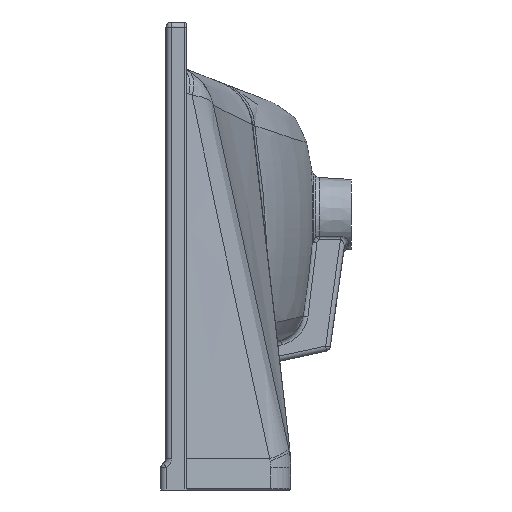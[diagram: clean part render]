
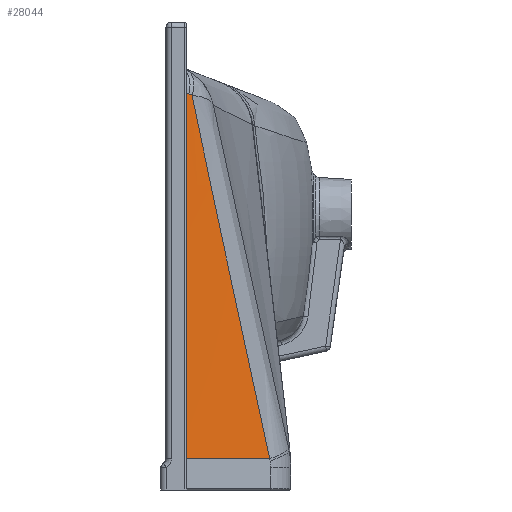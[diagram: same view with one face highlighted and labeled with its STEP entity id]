
A CAD part, left-side view. The second image highlights one B-rep face of the part: STEP entity #28044.
In plain terms, the highlighted free-form (B-spline) face has degree [3, 1] with [6, 2] control points.
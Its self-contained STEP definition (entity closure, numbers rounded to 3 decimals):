
#361 = CARTESIAN_POINT ( 'NONE',  ( -553., -11., -235. ) ) ;
#1311 = CARTESIAN_POINT ( 'NONE',  ( -553., -11., 142.555 ) ) ;
#2045 = CARTESIAN_POINT ( 'NONE',  ( -493.335, -87.06, -176.82 ) ) ;
#2317 = CARTESIAN_POINT ( 'NONE',  ( -543.403, -22.173, 115.467 ) ) ;
#2486 = CARTESIAN_POINT ( 'NONE',  ( -483.888, -99.626, -234.992 ) ) ;
#2519 = ORIENTED_EDGE ( 'NONE', *, *, #32696, .T. ) ;
#2537 = ORIENTED_EDGE ( 'NONE', *, *, #44348, .T. ) ;
#2554 = CARTESIAN_POINT ( 'NONE',  ( -545.001, -20.312, 116.151 ) ) ;
#2987 = CARTESIAN_POINT ( 'NONE',  ( -524.667, -47.333, -235. ) ) ;
#3237 = CARTESIAN_POINT ( 'NONE',  ( -502.806, -74.503, -118.65 ) ) ;
#3599 = EDGE_CURVE ( 'NONE', #39671, #40158, #10442, .T. ) ;
#6000 = B_SPLINE_CURVE_WITH_KNOTS ( 'NONE', 3,
 ( #2317, #39651, #39181, #2554, #9689, #24917, #39422 ),
 .UNSPECIFIED., .F., .F.,
 ( 4, 3, 4 ),
 ( 0.03, 0.033, 0.045 ),
 .UNSPECIFIED. ) ;
#6451 = CARTESIAN_POINT ( 'NONE',  ( -531.331, -37.165, 55.912 ) ) ;
#7763 = CARTESIAN_POINT ( 'NONE',  ( -540.918, -25.072, 114.162 ) ) ;
#9046 = EDGE_CURVE ( 'NONE', #40158, #27388, #36026, .T. ) ;
#9552 = VERTEX_POINT ( 'NONE', #35534 ) ;
#9689 = CARTESIAN_POINT ( 'NONE',  ( -547.517, -17.381, 117.228 ) ) ;
#9849 = CARTESIAN_POINT ( 'NONE',  ( -552.551, -11.526, 112.382 ) ) ;
#10442 = B_SPLINE_CURVE_WITH_KNOTS ( 'NONE', 3,
 ( #38475, #35699, #2045, #3237, #17510, #47427, #13819, #36170, #6451, #40570, #47676, #14300 ),
 .UNSPECIFIED., .F., .F.,
 ( 4, 2, 2, 2, 2, 4 ),
 ( 0., 0.09, 0.181, 0.271, 0.316, 0.362 ),
 .UNSPECIFIED. ) ;
#10943 = DIRECTION ( 'NONE',  ( 0.615, -0.789, 0. ) ) ;
#11945 = CARTESIAN_POINT ( 'NONE',  ( -541.729, -24.125, 114.673 ) ) ;
#12085 = CARTESIAN_POINT ( 'NONE',  ( -552.551, -11.522, 119.382 ) ) ;
#12305 = CARTESIAN_POINT ( 'NONE',  ( -552.55, -11.578, -235. ) ) ;
#12334 = CARTESIAN_POINT ( 'NONE',  ( -552.551, -11.523, 118.382 ) ) ;
#13228 = VERTEX_POINT ( 'NONE', #12305 ) ;
#13819 = CARTESIAN_POINT ( 'NONE',  ( -521.799, -49.496, -2.296 ) ) ;
#14021 = CARTESIAN_POINT ( 'NONE',  ( -552.551, -11.529, 104.382 ) ) ;
#14300 = CARTESIAN_POINT ( 'NONE',  ( -540.918, -25.072, 114.162 ) ) ;
#14526 = CARTESIAN_POINT ( 'NONE',  ( -532.477, -34.334, 133.58 ) ) ;
#14631 = LINE ( 'NONE', #361, #27310 ) ;
#16298 = CARTESIAN_POINT ( 'NONE',  ( -538.833, -29.167, -235. ) ) ;
#16998 = CARTESIAN_POINT ( 'NONE',  ( -552.55, -11.558, -7.618 ) ) ;
#17510 = CARTESIAN_POINT ( 'NONE',  ( -507.548, -68.23, -89.565 ) ) ;
#17704 = CARTESIAN_POINT ( 'NONE',  ( -552.55, -11.536, 88.382 ) ) ;
#17976 = CARTESIAN_POINT ( 'NONE',  ( -528.372, -39., 131.785 ) ) ;
#22241 = B_SPLINE_CURVE_WITH_KNOTS ( 'NONE', 3,
 ( #12085, #12334, #27326, #27075, #9849, #32220, #14021, #17704, #35662, #28303, #32443, #16998, #47392, #29017, #31988, #32927, #32683, #43492, #24846 ),
 .UNSPECIFIED., .F., .F.,
 ( 4, 3, 3, 3, 3, 3, 4 ),
 ( 0., 0.003, 0.015, 0.063, 0.159, 0.257, 0.354 ),
 .UNSPECIFIED. ) ;
#23258 = CARTESIAN_POINT ( 'NONE',  ( -543.403, -22.173, 115.467 ) ) ;
#23672 = FACE_OUTER_BOUND ( 'NONE', #35218, .T. ) ;
#24846 = CARTESIAN_POINT ( 'NONE',  ( -552.55, -11.578, -235. ) ) ;
#24917 = CARTESIAN_POINT ( 'NONE',  ( -550.034, -14.451, 118.305 ) ) ;
#25108 = CARTESIAN_POINT ( 'NONE',  ( -496.333, -83.667, -235. ) ) ;
#25671 = ORIENTED_EDGE ( 'NONE', *, *, #9046, .T. ) ;
#27075 = CARTESIAN_POINT ( 'NONE',  ( -552.551, -11.524, 116.382 ) ) ;
#27310 = VECTOR ( 'NONE', #10943, 1000. ) ;
#27326 = CARTESIAN_POINT ( 'NONE',  ( -552.551, -11.523, 117.382 ) ) ;
#27354 = ORIENTED_EDGE ( 'NONE', *, *, #3599, .T. ) ;
#27377 = ORIENTED_EDGE ( 'NONE', *, *, #32637, .T. ) ;
#27388 = VERTEX_POINT ( 'NONE', #38660 ) ;
#27526 = VERTEX_POINT ( 'NONE', #45263 ) ;
#27745 = ORIENTED_EDGE ( 'NONE', *, *, #44459, .T. ) ;
#28044 = ADVANCED_FACE ( 'NONE', ( #23672 ), #41188, .T. ) ;
#28303 = CARTESIAN_POINT ( 'NONE',  ( -552.55, -11.545, 56.382 ) ) ;
#28676 = B_SPLINE_CURVE_WITH_KNOTS ( 'NONE', 3,
 ( #47632, #44205, #43726, #2486 ),
 .UNSPECIFIED., .F., .F.,
 ( 4, 4 ),
 ( 0., 0. ),
 .UNSPECIFIED. ) ;
#28806 = CARTESIAN_POINT ( 'NONE',  ( -544.791, -20.333, 138.965 ) ) ;
#29017 = CARTESIAN_POINT ( 'NONE',  ( -552.55, -11.566, -72.181 ) ) ;
#31288 = CARTESIAN_POINT ( 'NONE',  ( -548.895, -15.667, 140.76 ) ) ;
#31988 = CARTESIAN_POINT ( 'NONE',  ( -552.55, -11.569, -104.745 ) ) ;
#32220 = CARTESIAN_POINT ( 'NONE',  ( -552.551, -11.527, 108.382 ) ) ;
#32443 = CARTESIAN_POINT ( 'NONE',  ( -552.55, -11.553, 24.382 ) ) ;
#32637 = EDGE_CURVE ( 'NONE', #9552, #13228, #22241, .T. ) ;
#32683 = CARTESIAN_POINT ( 'NONE',  ( -552.55, -11.574, -169.873 ) ) ;
#32696 = EDGE_CURVE ( 'NONE', #27526, #39671, #28676, .T. ) ;
#32927 = CARTESIAN_POINT ( 'NONE',  ( -552.55, -11.572, -137.309 ) ) ;
#33193 = CARTESIAN_POINT ( 'NONE',  ( -536.582, -29.667, 135.375 ) ) ;
#35218 = EDGE_LOOP ( 'NONE', ( #27745, #27377, #2537, #2519, #27354, #25671 ) ) ;
#35534 = CARTESIAN_POINT ( 'NONE',  ( -552.551, -11.522, 119.382 ) ) ;
#35662 = CARTESIAN_POINT ( 'NONE',  ( -552.55, -11.54, 72.382 ) ) ;
#35699 = CARTESIAN_POINT ( 'NONE',  ( -488.607, -93.345, -205.905 ) ) ;
#36026 = B_SPLINE_CURVE_WITH_KNOTS ( 'NONE', 3,
 ( #45570, #11945, #38235, #23258 ),
 .UNSPECIFIED., .F., .F.,
 ( 4, 4 ),
 ( 0., 0.004 ),
 .UNSPECIFIED. ) ;
#36170 = CARTESIAN_POINT ( 'NONE',  ( -528.946, -40.236, 41.358 ) ) ;
#38235 = CARTESIAN_POINT ( 'NONE',  ( -542.558, -23.158, 115.105 ) ) ;
#38475 = CARTESIAN_POINT ( 'NONE',  ( -483.888, -99.626, -234.992 ) ) ;
#38646 = CARTESIAN_POINT ( 'NONE',  ( -553., -11., -235. ) ) ;
#38660 = CARTESIAN_POINT ( 'NONE',  ( -543.403, -22.173, 115.467 ) ) ;
#39181 = CARTESIAN_POINT ( 'NONE',  ( -544.468, -20.932, 115.923 ) ) ;
#39422 = CARTESIAN_POINT ( 'NONE',  ( -552.551, -11.522, 119.382 ) ) ;
#39651 = CARTESIAN_POINT ( 'NONE',  ( -543.936, -21.553, 115.695 ) ) ;
#39671 = VERTEX_POINT ( 'NONE', #44181 ) ;
#40158 = VERTEX_POINT ( 'NONE', #7763 ) ;
#40570 = CARTESIAN_POINT ( 'NONE',  ( -536.112, -31.071, 85.029 ) ) ;
#41188 = B_SPLINE_SURFACE_WITH_KNOTS ( 'NONE', 3, 1, ( 
 ( #38646, #1311 ),
 ( #16298, #31288 ),
 ( #2987, #28806 ),
 ( #25108, #33193 ),
 ( #48136, #14526 ),
 ( #47193, #17976 ) ),
 .UNSPECIFIED., .F., .F., .F.,
 ( 4, 2, 4 ),
 ( 2, 2 ),
 ( 0., 0.5, 1. ),
 ( 0., 1. ),
 .UNSPECIFIED. ) ;
#43492 = CARTESIAN_POINT ( 'NONE',  ( -552.55, -11.576, -202.436 ) ) ;
#43726 = CARTESIAN_POINT ( 'NONE',  ( -483.9, -99.61, -234.997 ) ) ;
#44181 = CARTESIAN_POINT ( 'NONE',  ( -483.888, -99.626, -234.992 ) ) ;
#44205 = CARTESIAN_POINT ( 'NONE',  ( -483.914, -99.593, -235. ) ) ;
#44348 = EDGE_CURVE ( 'NONE', #13228, #27526, #14631, .T. ) ;
#44459 = EDGE_CURVE ( 'NONE', #27388, #9552, #6000, .T. ) ;
#45263 = CARTESIAN_POINT ( 'NONE',  ( -483.927, -99.576, -235. ) ) ;
#45570 = CARTESIAN_POINT ( 'NONE',  ( -540.918, -25.072, 114.162 ) ) ;
#47193 = CARTESIAN_POINT ( 'NONE',  ( -468., -120., -235. ) ) ;
#47392 = CARTESIAN_POINT ( 'NONE',  ( -552.55, -11.562, -39.618 ) ) ;
#47427 = CARTESIAN_POINT ( 'NONE',  ( -517.045, -55.728, -31.388 ) ) ;
#47632 = CARTESIAN_POINT ( 'NONE',  ( -483.927, -99.576, -235. ) ) ;
#47676 = CARTESIAN_POINT ( 'NONE',  ( -538.507, -28.05, 99.592 ) ) ;
#48136 = CARTESIAN_POINT ( 'NONE',  ( -482.167, -101.833, -235. ) ) ;
